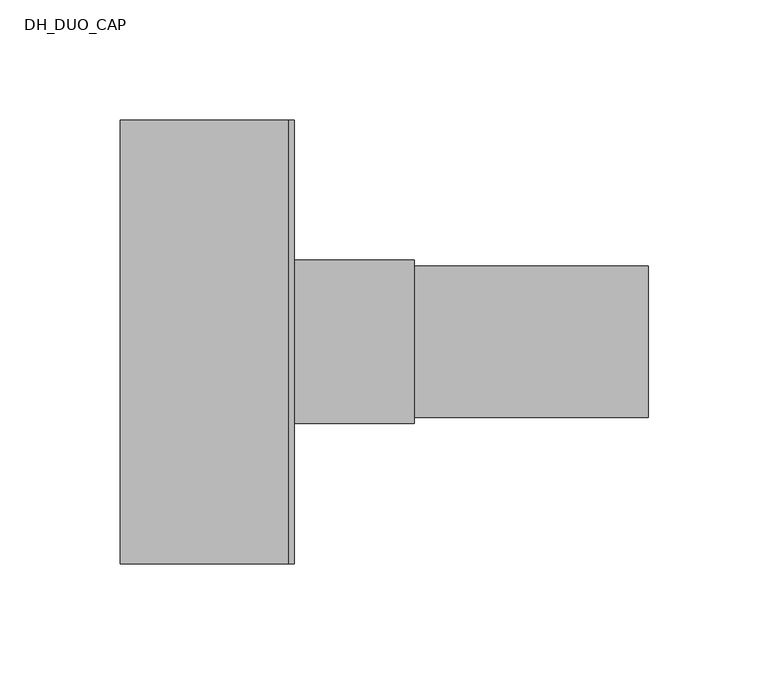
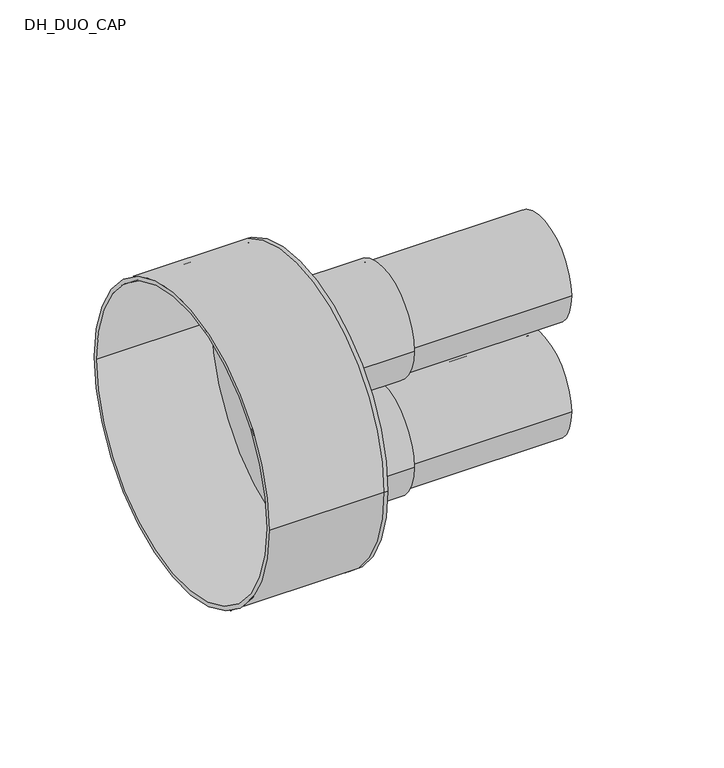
"""IFC4 building model written with IfcOpenShell, lengths in millimetres: pipe fitting geometry, DH_DUO_CAP : INSULPEX DUO 11 Heating - Rubber Cap."""

import ifcopenshell
import ifcopenshell.guid

model = None  # the IFC model being written
_history = None  # IfcOwnerHistory: only IFC2X3 demands one
_inside = {}  # id of a spatial element -> (the spatial element, [elements in it])
_under = {}  # id of a project, library or spatial element -> (it, [spatial elements below it])
_declared = {}  # id of a project -> (the project, [libraries it declares])
_typed = {}  # id of a type object -> (the type object, [elements of that type])
_made_of = {}  # id of a material, layer set ... -> (it, [elements and type objects made of it])


def new_model(schema):
    """Start an empty IFC model of exactly this schema.

    Asked for "IFC4X3", IfcOpenShell would pick the latest addendum, in which some entities
    have other attributes; the version numbers below select the first issue.
    IFC2X3 requires an IfcOwnerHistory on every rooted entity: one is made here for all.
    """
    global model, _history
    if schema == "IFC4X3":
        model = ifcopenshell.file(schema_version=(4, 3, 0, 0))
    else:
        model = ifcopenshell.file(schema=schema)
    _inside.clear()
    _under.clear()
    _declared.clear()
    _typed.clear()
    _made_of.clear()
    _history = None
    if model.schema == "IFC2X3":
        org = make("IfcOrganization", Name="unknown")
        user = make(
            "IfcPersonAndOrganization",
            ThePerson=make("IfcPerson", FamilyName="unknown"),
            TheOrganization=org,
        )
        app = make(
            "IfcApplication",
            ApplicationDeveloper=org,
            Version="unknown",
            ApplicationFullName="unknown",
            ApplicationIdentifier="unknown",
        )
        _history = make(
            "IfcOwnerHistory",
            OwningUser=user,
            OwningApplication=app,
            ChangeAction="ADDED",
            CreationDate=0,
        )
    return model


def make(cls, **values):
    """One entity of the class cls with the attributes given. An attribute that is None is left unset."""
    return model.create_entity(
        cls, **{name: value for name, value in values.items() if value is not None}
    )


def rooted(cls, **values):
    """An entity with a GlobalId (a new one), such as an element, a storey or a relation."""
    return make(cls, GlobalId=ifcopenshell.guid.new(), OwnerHistory=_history, **values)


def si_unit(unit_type, name, prefix=None):
    """IfcSIUnit, for example si_unit("LENGTHUNIT", "METRE", prefix="MILLI")."""
    return make("IfcSIUnit", UnitType=unit_type, Prefix=prefix, Name=name)


def assignment(units):
    """IfcUnitAssignment: the units of a project."""
    return None if units is None else make("IfcUnitAssignment", Units=units)


def point(xyz):
    """IfcCartesianPoint."""
    return None if xyz is None else make("IfcCartesianPoint", Coordinates=xyz)


def direction(xyz):
    """IfcDirection."""
    return None if xyz is None else make("IfcDirection", DirectionRatios=xyz)


def frame(location, z_axis=None, x_axis=None):
    """IfcAxis2Placement3D, a coordinate frame: its origin and axes. An axis left out is left unset."""
    return make(
        "IfcAxis2Placement3D",
        Location=point(location),
        Axis=direction(z_axis),
        RefDirection=direction(x_axis),
    )


def frame_2d(location, x_axis=None):
    """IfcAxis2Placement2D, a coordinate frame in the plane: its origin and x axis."""
    return make(
        "IfcAxis2Placement2D", Location=point(location), RefDirection=direction(x_axis)
    )


def origin():
    """The frame at (0, 0, 0) with its axes left unset."""
    return frame((0.0, 0.0, 0.0))


def place(relative_to, where):
    """IfcLocalPlacement: puts the frame where relative to a parent placement (None: the world)."""
    return make(
        "IfcLocalPlacement", PlacementRelTo=relative_to, RelativePlacement=where
    )


def context(
    kind, dimensions, precision=None, world=None, true_north=None, identifier=None
):
    """IfcGeometricRepresentationContext, for example the 3D "Model" context."""
    return make(
        "IfcGeometricRepresentationContext",
        ContextIdentifier=identifier,
        ContextType=kind,
        CoordinateSpaceDimension=dimensions,
        Precision=precision,
        WorldCoordinateSystem=world,
        TrueNorth=true_north,
    )


def project(units=None, contexts=None):
    """IfcProject with its units and contexts."""
    return rooted(
        "IfcProject",
        Name="project",
        RepresentationContexts=contexts,
        UnitsInContext=assignment(units),
    )


def spatial(cls, under=None, at=None, **own):
    """A site, building, storey or space (cls), placed at a placement, below another one or the project."""
    s = rooted(cls, ObjectPlacement=at, **own)
    if under is not None:
        _under.setdefault(under.id(), (under, []))[1].append(s)
    return s


def polyline(points):
    """IfcPolyline through the points."""
    return make("IfcPolyline", Points=[point(p) for p in points])


def circle_curve(where, radius):
    """IfcCircle in the frame where."""
    return make("IfcCircle", Position=where, Radius=radius)


def trimmed(basis, trim1, trim2, sense, master):
    """IfcTrimmedCurve: the piece of a basis curve between two trims."""
    return make(
        "IfcTrimmedCurve",
        BasisCurve=basis,
        Trim1=trim1,
        Trim2=trim2,
        SenseAgreement=sense,
        MasterRepresentation=master,
    )


def segment(curve, same_sense, transition):
    """IfcCompositeCurveSegment."""
    return make(
        "IfcCompositeCurveSegment",
        Transition=transition,
        SameSense=same_sense,
        ParentCurve=curve,
    )


def composite_curve(segments, self_intersect=None):
    """IfcCompositeCurve: segments joined end to end."""
    return make("IfcCompositeCurve", Segments=segments, SelfIntersect=self_intersect)


def outline(outer, holes=None, kind="AREA"):
    """IfcArbitraryClosedProfileDef: a profile drawn as a closed curve; with holes, ...WithVoids."""
    if holes is None:
        return make("IfcArbitraryClosedProfileDef", ProfileType=kind, OuterCurve=outer)
    return make(
        "IfcArbitraryProfileDefWithVoids",
        ProfileType=kind,
        OuterCurve=outer,
        InnerCurves=holes,
    )


def extrude(swept, where, along, depth):
    """IfcExtrudedAreaSolid: the profile swept, set in the frame where, extruded along a direction by depth."""
    return make(
        "IfcExtrudedAreaSolid",
        SweptArea=swept,
        Position=where,
        ExtrudedDirection=direction(along),
        Depth=depth,
    )


def shape(context_of_items, identifier, shape_type, items):
    """IfcShapeRepresentation: the items that make up one representation, for example the "Body"."""
    return make(
        "IfcShapeRepresentation",
        ContextOfItems=context_of_items,
        RepresentationIdentifier=identifier,
        RepresentationType=shape_type,
        Items=items,
    )


def source(mapping_origin, context_of_items, identifier, shape_type, items):
    """IfcRepresentationMap: a shape defined once, which mapped items show again and again."""
    return make(
        "IfcRepresentationMap",
        MappingOrigin=mapping_origin,
        MappedRepresentation=shape(context_of_items, identifier, shape_type, items),
    )


def transform(
    local_origin,
    x_axis=None,
    y_axis=None,
    z_axis=None,
    scale=None,
    scale2=None,
    scale3=None,
    uniform=True,
):
    """IfcCartesianTransformationOperator3D, or its non-uniform kind. x_axis, y_axis, z_axis: its Axis1, 2, 3."""
    if uniform:
        return make(
            "IfcCartesianTransformationOperator3D",
            Axis1=direction(x_axis),
            Axis2=direction(y_axis),
            LocalOrigin=point(local_origin),
            Scale=scale,
            Axis3=direction(z_axis),
        )
    return make(
        "IfcCartesianTransformationOperator3DnonUniform",
        Axis1=direction(x_axis),
        Axis2=direction(y_axis),
        LocalOrigin=point(local_origin),
        Scale=scale,
        Axis3=direction(z_axis),
        Scale2=scale2,
        Scale3=scale3,
    )


def mapped(mapping_source, mapping_target):
    """IfcMappedItem: shows the shape of a source again, moved by a transform."""
    return make(
        "IfcMappedItem", MappingSource=mapping_source, MappingTarget=mapping_target
    )


def made_of(thing, what):
    """Note that an element or type object is made of a material, layer set ...; save() writes the relation."""
    if what is not None:
        _made_of.setdefault(what.id(), (what, []))[1].append(thing)
    return thing


def element(
    cls,
    number,
    at=None,
    inside=None,
    cuts=None,
    type_object=None,
    material=None,
    context=None,
    identifier="Body",
    shape_type=None,
    held_by="IfcProductDefinitionShape",
    body=None,
    shapes=None,
    **own,
):
    """One element of the class cls, such as IfcWall. Its Tag is "e" and its number.

    at: its placement. inside: the storey or other place that contains it. cuts: it is an
    opening in that element (IfcRelVoidsElement). A single representation is given by context,
    identifier, shape_type and body (its items); several are given by shapes. held_by: the class
    of the entity that holds the representations. save() writes the other relations.
    """
    e = rooted(cls, Tag="e%d" % number, ObjectPlacement=at, **own)
    if body is not None:
        shapes = [shape(context, identifier, shape_type, body)]
    if shapes is not None:
        e.Representation = make(held_by, Representations=shapes)
    if inside is not None:
        _inside.setdefault(inside.id(), (inside, []))[1].append(e)
    if cuts is not None:
        rooted(
            "IfcRelVoidsElement", RelatingBuildingElement=cuts, RelatedOpeningElement=e
        )
    if type_object is not None:
        _typed.setdefault(type_object.id(), (type_object, []))[1].append(e)
    return made_of(e, material)


def aggregate(whole, parts):
    """IfcRelAggregates: a whole, such as a stair, and the parts it consists of."""
    return rooted("IfcRelAggregates", RelatingObject=whole, RelatedObjects=parts)


def save(model, path):
    """Write the relations noted so far, then the file.

    IfcRelAggregates (storeys below a building ...), IfcRelContainedInSpatialStructure (elements
    in a storey), IfcRelDefinesByType, IfcRelAssociatesMaterial and IfcRelDeclares: one each for
    every whole, place, type object, material and project.
    """
    for whole, parts in _under.values():
        aggregate(whole, parts)
    for where, things in _inside.values():
        rooted(
            "IfcRelContainedInSpatialStructure",
            RelatedElements=things,
            RelatingStructure=where,
        )
    for kind, things in _typed.values():
        rooted("IfcRelDefinesByType", RelatedObjects=things, RelatingType=kind)
    for what, things in _made_of.values():
        rooted("IfcRelAssociatesMaterial", RelatedObjects=things, RelatingMaterial=what)
    for by, libraries in _declared.values():
        rooted("IfcRelDeclares", RelatingContext=by, RelatedDefinitions=libraries)
    model.write(path)


def plane_surface(at):
    """IfcPlane: the flat surface through the origin of the frame at, square to its z axis."""
    return make("IfcPlane", Position=at)


def cylinder_surface(at, radius):
    """IfcCylindricalSurface: all points at the distance radius from the z axis of the frame at."""
    return make("IfcCylindricalSurface", Position=at, Radius=radius)


def revolved_surface(curve, axis_point, axis_direction):
    """IfcSurfaceOfRevolution: the curve turned about the line through axis_point along axis_direction."""
    return make(
        "IfcSurfaceOfRevolution",
        SweptCurve=make("IfcArbitraryOpenProfileDef", ProfileType="CURVE", Curve=curve),
        AxisPosition=make("IfcAxis1Placement", Location=point(axis_point), Axis=direction(axis_direction)),
    )


def advanced_brep(points, edges, surfaces, faces):
    """IfcAdvancedBrep: a solid bounded by faces that lie on surfaces and meet in shared edges.

    An edge is (start, end): straight between two places in points (the first is 0);
    or (start, end, curve); or (start, end, curve, False) where it runs against its curve.
    A face is (place in surfaces, loops), or (place, loops, False) where it looks against
    its surface's normal. A loop lists edges by number (the first is 1), with a minus sign
    where the edge is run from its end to its start. The first loop is the outer one.
    """
    corners = [point(p) for p in points]
    vertices = [make("IfcVertexPoint", VertexGeometry=c) for c in corners]
    made = []
    for start, end, *more in edges:
        made.append(
            make(
                "IfcEdgeCurve",
                EdgeStart=vertices[start],
                EdgeEnd=vertices[end],
                EdgeGeometry=more[0] if more else make("IfcPolyline", Points=[corners[start], corners[end]]),
                SameSense=more[1] if len(more) > 1 else True,
            )
        )
    hull = []
    for where, loops, *sense in faces:
        bounds = []
        for j, loop in enumerate(loops):
            ring = [make("IfcOrientedEdge", EdgeElement=made[abs(k) - 1], Orientation=k > 0) for k in loop]
            bounds.append(
                make(
                    "IfcFaceOuterBound" if j == 0 else "IfcFaceBound",
                    Bound=make("IfcEdgeLoop", EdgeList=ring),
                    Orientation=True,
                )
            )
        hull.append(make("IfcAdvancedFace", Bounds=bounds, FaceSurface=surfaces[where], SameSense=sense[0] if sense else True))
    return make("IfcAdvancedBrep", Outer=make("IfcClosedShell", CfsFaces=hull))


def dh_duo_cap_80edf0fb(model_context):
    return source(origin(), model_context, "Body", "SolidModel", [
        extrude(outline(composite_curve([segment(trimmed(circle_curve(frame_2d((0.0, -37.5)), 31.5), [point((-31.5, -37.5))], [point((31.5, -37.5))], False, "CARTESIAN"), True, "CONTINUOUS"), segment(trimmed(circle_curve(frame_2d((0.0, -37.5)), 31.5), [point((31.5, -37.5))], [point((-31.5, -37.5))], False, "CARTESIAN"), True, "CONTINUOUS")], self_intersect=False), holes=[composite_curve([segment(trimmed(circle_curve(frame_2d((0.0, -37.5)), 25.7), [point((-25.7, -37.5))], [point((25.7, -37.5))], True, "CARTESIAN"), True, "CONTINUOUS"), segment(trimmed(circle_curve(frame_2d((0.0, -37.5)), 25.7), [point((25.7, -37.5))], [point((-25.7, -37.5))], True, "CARTESIAN"), True, "CONTINUOUS")], self_intersect=False)]), frame((0.0, 0.0, 0.0), z_axis=(1.0, 0.0, 0.0), x_axis=(0.0, 1.0, 0.0)), (0.0, 0.0, 1.0), 150.0),
        extrude(outline(composite_curve([segment(trimmed(circle_curve(frame_2d((0.0, 37.5)), 31.5), [point((-31.5, 37.5))], [point((31.5, 37.5))], False, "CARTESIAN"), True, "CONTINUOUS"), segment(trimmed(circle_curve(frame_2d((0.0, 37.5)), 31.5), [point((31.5, 37.5))], [point((-31.5, 37.5))], False, "CARTESIAN"), True, "CONTINUOUS")], self_intersect=False), holes=[composite_curve([segment(trimmed(circle_curve(frame_2d((0.0, 37.5)), 25.7), [point((-25.7, 37.5))], [point((25.7, 37.5))], True, "CARTESIAN"), True, "CONTINUOUS"), segment(trimmed(circle_curve(frame_2d((0.0, 37.5)), 25.7), [point((25.7, 37.5))], [point((-25.7, 37.5))], True, "CARTESIAN"), True, "CONTINUOUS")], self_intersect=False)]), frame((0.0, 0.0, 0.0), z_axis=(1.0, 0.0, 0.0), x_axis=(0.0, 1.0, 0.0)), (0.0, 0.0, 1.0), 150.0),
        advanced_brep(
        [(-70.0, -92.5, 0.0), (-70.0, 92.5, 0.0), (-70.0, -90.0, 0.0), (-70.0, 90.0, 0.0), (0.0, -90.0, 0.0), (0.0, 90.0, 0.0), (0.0, -92.5, 0.0), (0.0, 92.5, 0.0), (0.0, 31.5, 37.5), (0.0, -31.5, 37.5), (0.0, 31.5, -37.5), (0.0, -31.5, -37.5), (2.5, -92.5, 0.0), (2.5, 92.5, 0.0), (2.5, -31.5, 37.5), (2.5, 31.5, 37.5), (2.5, -31.5, -37.5), (2.5, 31.5, -37.5)],
        [
            (0, 1, circle_curve(frame((-70.0, 0.0, 0.0), z_axis=(-1.0, 0.0, 0.0), x_axis=(0.0, 1.0, 0.0)), 92.5)),
            (1, 0, circle_curve(frame((-70.0, 0.0, 0.0), z_axis=(-1.0, 0.0, 0.0), x_axis=(0.0, 1.0, 0.0)), 92.5)),
            (2, 3, circle_curve(frame((-70.0, 0.0, 0.0), z_axis=(1.0, 0.0, 0.0), x_axis=(0.0, 1.0, 0.0)), 90.0)),
            (3, 2, circle_curve(frame((-70.0, 0.0, 0.0), z_axis=(1.0, 0.0, 0.0), x_axis=(0.0, 1.0, 0.0)), 90.0)),
            (2, 4),
            (4, 5, circle_curve(frame((0.0, 0.0, 0.0), z_axis=(1.0, 0.0, 0.0), x_axis=(0.0, 1.0, 0.0)), 90.0)),
            (5, 3),
            (5, 4, circle_curve(frame((0.0, 0.0, 0.0), z_axis=(1.0, 0.0, 0.0), x_axis=(0.0, 1.0, 0.0)), 90.0)),
            (0, 6),
            (6, 7, circle_curve(frame((0.0, 0.0, 0.0), z_axis=(-1.0, 0.0, 0.0), x_axis=(0.0, 1.0, 0.0)), 92.5)),
            (7, 1),
            (7, 6, circle_curve(frame((0.0, 0.0, 0.0), z_axis=(-1.0, 0.0, 0.0), x_axis=(0.0, 1.0, 0.0)), 92.5)),
            (8, 9, circle_curve(frame((0.0, 0.0, 37.5), z_axis=(1.0, 0.0, 0.0), x_axis=(0.0, 1.0, 0.0)), 31.5)),
            (9, 8, circle_curve(frame((0.0, 0.0, 37.5), z_axis=(1.0, 0.0, 0.0), x_axis=(0.0, 1.0, 0.0)), 31.5)),
            (10, 11, circle_curve(frame((0.0, 0.0, -37.5), z_axis=(1.0, 0.0, 0.0), x_axis=(0.0, 1.0, 0.0)), 31.5)),
            (11, 10, circle_curve(frame((0.0, 0.0, -37.5), z_axis=(1.0, 0.0, 0.0), x_axis=(0.0, 1.0, 0.0)), 31.5)),
            (12, 13, circle_curve(frame((2.5, 0.0, 0.0), z_axis=(1.0, 0.0, 0.0), x_axis=(0.0, 1.0, 0.0)), 92.5)),
            (13, 12, circle_curve(frame((2.5, 0.0, 0.0), z_axis=(1.0, 0.0, 0.0), x_axis=(0.0, 1.0, 0.0)), 92.5)),
            (14, 15, circle_curve(frame((2.5, 0.0, 37.5), z_axis=(-1.0, 0.0, 0.0), x_axis=(0.0, 1.0, 0.0)), 31.5)),
            (15, 14, circle_curve(frame((2.5, 0.0, 37.5), z_axis=(-1.0, 0.0, 0.0), x_axis=(0.0, 1.0, 0.0)), 31.5)),
            (16, 17, circle_curve(frame((2.5, 0.0, -37.5), z_axis=(-1.0, 0.0, 0.0), x_axis=(0.0, 1.0, 0.0)), 31.5)),
            (17, 16, circle_curve(frame((2.5, 0.0, -37.5), z_axis=(-1.0, 0.0, 0.0), x_axis=(0.0, 1.0, 0.0)), 31.5)),
            (13, 7),
            (6, 12),
            (8, 15),
            (14, 9),
            (10, 17),
            (16, 11),
        ],
        [
            plane_surface(frame((-70.0, 0.0, 0.0), z_axis=(-1.0, 0.0, 0.0), x_axis=(0.0, 0.0, 1.0))),
            revolved_surface(polyline([(0.0, 90.0, 0.0), (-70.0, 90.0, 0.0)]), (-70.0, 0.0, 0.0), (1.0, 0.0, 0.0)),
            cylinder_surface(frame((-70.0, 0.0, 0.0), z_axis=(-1.0, 0.0, 0.0), x_axis=(0.0, 1.0, 0.0)), 92.5),
            plane_surface(frame((0.0, 0.0, 0.0), z_axis=(-1.0, 0.0, 0.0), x_axis=(0.0, 0.0, 1.0))),
            plane_surface(frame((2.5, 0.0, 0.0), z_axis=(1.0, 0.0, 0.0), x_axis=(0.0, 0.0, 1.0))),
            cylinder_surface(frame((0.0, 0.0, 0.0), z_axis=(-1.0, 0.0, 0.0), x_axis=(0.0, 1.0, 0.0)), 92.5),
            revolved_surface(polyline([(0.0, 31.5, 37.5), (2.5, 31.5, 37.5)]), (0.0, 0.0, 37.5), (-1.0, 0.0, 0.0)),
            revolved_surface(polyline([(0.0, 31.5, -37.5), (2.5, 31.5, -37.5)]), (0.0, 0.0, -37.5), (-1.0, 0.0, 0.0)),
        ],
        [
            (0, [[1, 2], [3, 4]]),
            (1, [[-3, 5, 6, 7]]),
            (1, [[-4, -7, 8, -5]]),
            (2, [[-1, 9, 10, 11]]),
            (2, [[-2, -11, 12, -9]]),
            (3, [[-6, -8], [13, 14], [15, 16]]),
            (4, [[17, 18], [19, 20], [21, 22]]),
            (5, [[-18, 23, -10, 24]]),
            (5, [[-17, -24, -12, -23]]),
            (6, [[25, -19, 26, -13]]),
            (6, [[-25, -14, -26, -20]]),
            (7, [[27, -21, 28, -15]]),
            (7, [[-27, -16, -28, -22]]),
        ],
    ),
        extrude(outline(composite_curve([segment(trimmed(circle_curve(frame_2d((0.0, -37.5)), 34.0), [point((-34.0, -37.5))], [point((34.0, -37.5))], False, "CARTESIAN"), True, "CONTINUOUS"), segment(trimmed(circle_curve(frame_2d((0.0, -37.5)), 34.0), [point((34.0, -37.5))], [point((-34.0, -37.5))], False, "CARTESIAN"), True, "CONTINUOUS")], self_intersect=False), holes=[composite_curve([segment(trimmed(circle_curve(frame_2d((0.0, -37.5)), 31.5), [point((-31.5, -37.5))], [point((31.5, -37.5))], True, "CARTESIAN"), True, "CONTINUOUS"), segment(trimmed(circle_curve(frame_2d((0.0, -37.5)), 31.5), [point((31.5, -37.5))], [point((-31.5, -37.5))], True, "CARTESIAN"), True, "CONTINUOUS")], self_intersect=False)]), frame((2.5, 0.0, 0.0), z_axis=(1.0, 0.0, 0.0), x_axis=(0.0, 1.0, 0.0)), (0.0, 0.0, 1.0), 50.0),
        extrude(outline(composite_curve([segment(trimmed(circle_curve(frame_2d((0.0, 37.5)), 34.0), [point((-34.0, 37.5))], [point((34.0, 37.5))], False, "CARTESIAN"), True, "CONTINUOUS"), segment(trimmed(circle_curve(frame_2d((0.0, 37.5)), 34.0), [point((34.0, 37.5))], [point((-34.0, 37.5))], False, "CARTESIAN"), True, "CONTINUOUS")], self_intersect=False), holes=[composite_curve([segment(trimmed(circle_curve(frame_2d((0.0, 37.5)), 31.5), [point((-31.5, 37.5))], [point((31.5, 37.5))], True, "CARTESIAN"), True, "CONTINUOUS"), segment(trimmed(circle_curve(frame_2d((0.0, 37.5)), 31.5), [point((31.5, 37.5))], [point((-31.5, 37.5))], True, "CARTESIAN"), True, "CONTINUOUS")], self_intersect=False)]), frame((2.5, 0.0, 0.0), z_axis=(1.0, 0.0, 0.0), x_axis=(0.0, 1.0, 0.0)), (0.0, 0.0, 1.0), 50.0),
    ])


if __name__ == "__main__":
    model = new_model("IFC4")
    model_context = context("Model", 3, world=origin())
    ifc_project = project(units=[si_unit("LENGTHUNIT", "METRE", prefix="MILLI")], contexts=[model_context])
    site = spatial("IfcSite", under=ifc_project)
    building = spatial("IfcBuilding", under=site)
    placement = place(None, origin())
    dh_duo_cap_shape = dh_duo_cap_80edf0fb(model_context)
    element("IfcPipeFitting", 1, ObjectType="DH_DUO_CAP : INSULPEX DUO 11 Heating - Rubber Cap", at=placement, inside=building, context=model_context, shape_type="MappedRepresentation", body=[
        mapped(dh_duo_cap_shape, transform((0.0, 0.0, 0.0), x_axis=(1.0, 0.0, 0.0), y_axis=(0.0, 1.0, 0.0), z_axis=(0.0, 0.0, 1.0))),
    ])
    save(model, "model.ifc")
